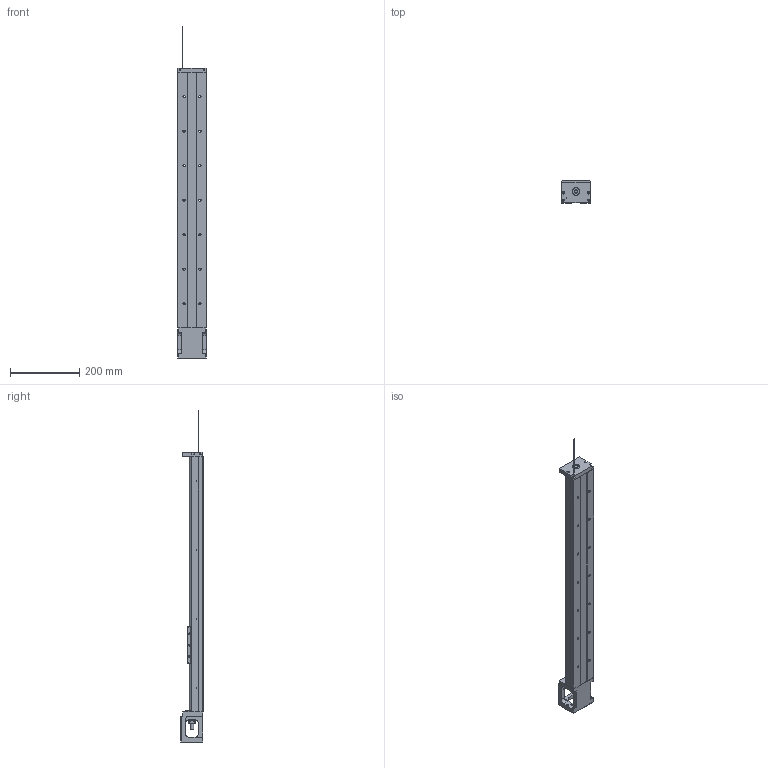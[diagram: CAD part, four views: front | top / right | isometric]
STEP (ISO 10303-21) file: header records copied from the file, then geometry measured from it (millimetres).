
FILE_DESCRIPTION(/* description */ (''),/* implementation_level */ '2;1');
FILE_NAME(/* name */ 'KP46N-740-D.stp',/* time_stamp */ '2020-06-05T09:59:28+08:00',/* author */ (''),/* organization */ (''),/* preprocessor_version */ 'ST-DEVELOPER v14',/* originating_system */ 'SIEMENS PLM Software NX 8.0',/* authorisation */ '');
FILE_SCHEMA (('AUTOMOTIVE_DESIGN { 1 0 10303 214 3 1 1 1 }'));
Length unit declared in the file: millimetre
Products named in the file (1): model1
Bounding box: 86 x 64 x 961.69 mm (x, y, z)
Volume: 1683333 mm3; surface area: 361817.5 mm2
Topology: 9 solids, 21 shells, 664 faces, 1743 edges, 1145 vertices
Faces by surface type: plane 298, cylinder 239, cone 69, bspline 50, torus 8
Full cylindrical faces by diameter (mm): 2.11 x4, 2.15 x8, 2.42 x8, 3 x6, 3.2 x4, 3.3 x8, 3.4 x8, 4.2 x4, 4.5 x8, 5 x10, 6 x8, 6.35 x2, 6.6 x14, 9.6 x1, 10 x4, 11 x14, 12 x1, 14.95 x2, 15 x1, 16 x2, 22 x3, 27.5 x1, 44 x1, 50 x1
Entity records: 30417 total; most frequent: CARTESIAN_POINT 12859, ORIENTED_EDGE 2936, DIRECTION 2871, EDGE_CURVE 1468, AXIS2_PLACEMENT_3D 1077, VERTEX_POINT 1063, EDGE_LOOP 937, LINE 717
